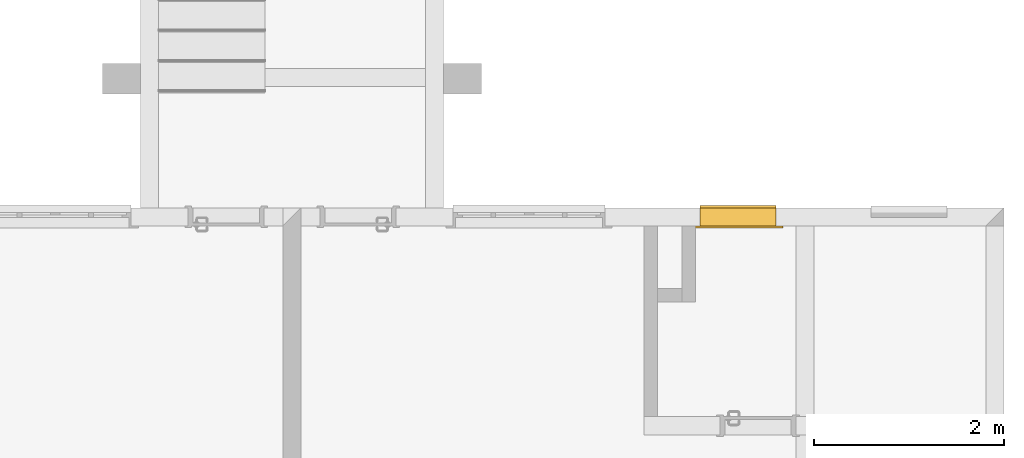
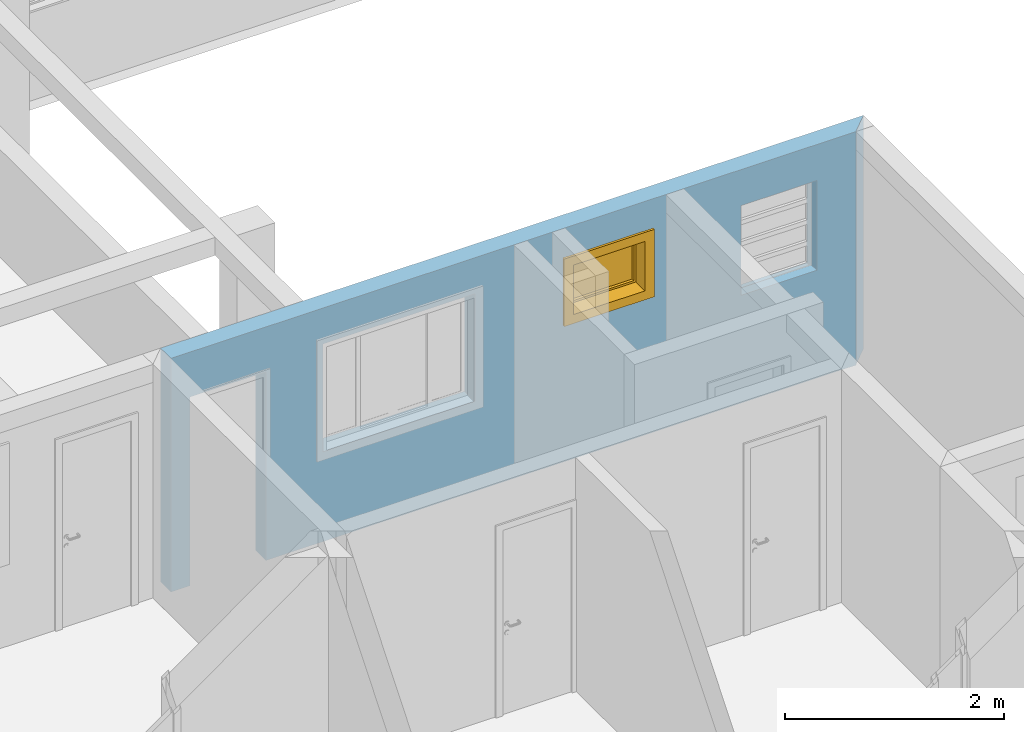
# One storey, part 22 of 47: 1 window, 4 openings, plus 1 element that does not belong to this part.
"""IFC2X3 building model written with IfcOpenShell, lengths in millimetres."""

from ifc_helpers import new_model, entity, si_unit, converted_unit, derived_unit, money_unit, direction, frame, origin_with_axes, origin_2d_with_axis, place, context, subcontext, project, spatial, polyline, rectangle, outline, extrude, open_shell, faceted_brep, surface_model, source, transform, mapped, material, layer, layer_set, layer_usage, type_object, element, fill, save


model = new_model("IFC2X3")

# Units and contexts
model_context = context("Model", 3, precision=0.01, world=origin_with_axes(), true_north=direction((0.0, 1.0)))
body_context = subcontext(model_context, "Body", "Model", "MODEL_VIEW")
ifc_project = project(units=[si_unit("LENGTHUNIT", "METRE", prefix="MILLI"), si_unit("AREAUNIT", "SQUARE_METRE"), si_unit("VOLUMEUNIT", "CUBIC_METRE"), converted_unit("PLANEANGLEUNIT", "DEGREE", entity("IfcPlaneAngleMeasure", 0.0174532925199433), si_unit("PLANEANGLEUNIT", "RADIAN"), dimensions=[0, 0, 0, 0, 0, 0, 0]), money_unit("USD"), converted_unit("TIMEUNIT", "Year", entity("IfcTimeMeasure", 31557600.0), si_unit("TIMEUNIT", "SECOND"), dimensions=[0, 0, 1, 0, 0, 0, 0]), si_unit("MASSUNIT", "GRAM", prefix="KILO"), si_unit("THERMODYNAMICTEMPERATUREUNIT", "DEGREE_CELSIUS"), si_unit("LUMINOUSINTENSITYUNIT", "LUMEN"), si_unit("ENERGYUNIT", "JOULE", prefix="MEGA"), derived_unit("THERMALCONDUCTANCEUNIT", [(si_unit("POWERUNIT", "WATT"), 1), (si_unit("LENGTHUNIT", "METRE"), -1), (si_unit("THERMODYNAMICTEMPERATUREUNIT", "KELVIN"), -1)]), derived_unit("SPECIFICHEATCAPACITYUNIT", [(si_unit("ENERGYUNIT", "JOULE"), 1), (si_unit("MASSUNIT", "GRAM", prefix="KILO"), -1), (si_unit("THERMODYNAMICTEMPERATUREUNIT", "KELVIN"), -1)]), derived_unit("MASSDENSITYUNIT", [(si_unit("MASSUNIT", "GRAM", prefix="KILO"), 1), (si_unit("VOLUMEUNIT", "CUBIC_METRE"), -1)])], contexts=[model_context])

# Site, building, storey
site_placement = place(None, origin_with_axes())
site = spatial("IfcSite", under=ifc_project, at=site_placement, Name="Local", CompositionType="ELEMENT")
building_placement = place(site_placement, origin_with_axes())
building = spatial("IfcBuilding", under=site, at=building_placement, Name="Construção", CompositionType="ELEMENT")
storey_placement = place(building_placement, origin_with_axes())
storey = spatial("IfcBuildingStorey", under=building, at=storey_placement, Name="Pavimento Tipo", CompositionType="ELEMENT", Elevation=0.0)

# Wall, openings, window
ifc_material = material(Name="Concreto - Estrutural")
ifc_layer = layer(ifc_material, 190.0, ventilated="UNKNOWN")
ifc_layer_set = layer_set([ifc_layer], Name="Concreto - Estrutural 190")
ifc_layer_usage = layer_usage(ifc_layer_set, "AXIS2", "POSITIVE", -190.0)
wall_type = type_object("IfcWallType", Name="Concreto - Estrutural 190", PredefinedType="NOTDEFINED")
wall_placement = place(storey_placement, frame((1042.56699750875, 5186.981417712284, 0.0), z_axis=(0.0, 0.0, 1.0), x_axis=(1.0, 0.0, 0.0)))
wall = element("IfcWallStandardCase", 1, at=wall_placement, inside=storey, type_object=wall_type, material=ifc_layer_usage, Name="Apartamento 4 - Parede-003", context=body_context, shape_type="SweptSolid", body=[
    extrude(outline(polyline([(0.0, -190.0000000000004), (7209.999999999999, -190.0000000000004), (7399.999999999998, 0.0), (0.0, 0.0), (0.0, -190.0000000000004)])), origin_with_axes(), (0.0, 0.0, 1.0), 2600.0),
])
opening_1_placement = place(wall_placement, frame((2400.0, 0.0, 1000.0), z_axis=(0.0, 0.0, 1.0), x_axis=(1.0, 0.0, 0.0)))
element("IfcOpeningElement", 2, at=opening_1_placement, cuts=wall, Name="Apartamento 4 - J01", context=body_context, shape_type="SweptSolid", body=[
    extrude(rectangle(XDim=1600.0, YDim=1200.0, at=origin_2d_with_axis()), frame((0.0, -49.99999999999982, 600.0000000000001), z_axis=(0.0, 1.0, 0.0), x_axis=(1.0, 0.0, 0.0)), (0.0, 0.0, -1.0), 330.0),
    extrude(rectangle(XDim=1600.0, YDim=1200.0, at=origin_2d_with_axis()), frame((0.0, -49.99999999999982, 600.0000000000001), z_axis=(0.0, -1.0, 0.0), x_axis=(1.0, 0.0, 0.0)), (0.0, 0.0, -1.0), 240.0),
    extrude(rectangle(XDim=1750.0, YDim=1350.0, at=origin_2d_with_axis()), frame((0.0, -189.9999999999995, 600.0000000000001), z_axis=(0.0, 1.0, 0.0), x_axis=(1.0, 0.0, 0.0)), (0.0, 0.0, -1.0), 240.0),
])
opening_2_placement = place(wall_placement, frame((6399.999999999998, 0.0, 1200.0), z_axis=(0.0, 0.0, 1.0), x_axis=(1.0, 0.0, 0.0)))
element("IfcOpeningElement", 3, at=opening_2_placement, cuts=wall, Name="Apartamento 4 - J03", context=body_context, shape_type="SweptSolid", body=[
    extrude(rectangle(XDim=800.0000000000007, YDim=1000.0, at=origin_2d_with_axis()), frame((0.0, -49.99999999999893, 500.0), z_axis=(0.0, -1.0, 0.0), x_axis=(-1.0, 0.0, 0.0)), (0.0, 0.0, 1.0), 330.0),
    extrude(rectangle(XDim=800.0000000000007, YDim=1000.0, at=origin_2d_with_axis()), frame((0.0, -49.99999999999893, 500.0), z_axis=(0.0, 1.0, 0.0), x_axis=(-1.0, 0.0, 0.0)), (0.0, 0.0, 1.0), 240.0),
    extrude(rectangle(XDim=800.0000000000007, YDim=30.00000000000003, at=origin_2d_with_axis()), frame((0.0, -84.99999999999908, -14.9999999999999), z_axis=(0.0, 1.0, 0.0), x_axis=(-1.0, 0.0, 0.0)), (0.0, 0.0, 1.0), 225.0),
])
opening_3_placement = place(wall_placement, frame((600.0000000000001, 0.0, 0.0), z_axis=(0.0, 0.0, 1.0), x_axis=(1.0, 0.0, 0.0)))
element("IfcOpeningElement", 4, at=opening_3_placement, cuts=wall, Name="Apartamento 4 - P01", context=body_context, shape_type="SweptSolid", body=[
    extrude(rectangle(XDim=800.0, YDim=2100.0, at=origin_2d_with_axis()), frame((0.0, -190.0000000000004, 1050.0), z_axis=(0.0, 1.0, 0.0), x_axis=(-1.0, 0.0, 0.0)), (0.0, 0.0, 1.0), 570.0000000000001),
    extrude(rectangle(XDim=870.0000000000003, YDim=2135.0, at=origin_2d_with_axis()), frame((0.0, -190.0000000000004, 1067.5), z_axis=(0.0, 1.0, 0.0), x_axis=(-1.0, 0.0, 0.0)), (0.0, 0.0, -1.0), 190.0),
    extrude(rectangle(XDim=870.0000000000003, YDim=2135.0, at=origin_2d_with_axis()), frame((0.0, 0.0, 1067.5), z_axis=(0.0, -1.0, 0.0), x_axis=(-1.0, 0.0, 0.0)), (0.0, 0.0, -1.0), 190.0),
])
opening_4_placement = place(wall_placement, frame((4600.0, 0.0, 1600.0), z_axis=(0.0, 0.0, 1.0), x_axis=(1.0, 0.0, 0.0)))
opening_4 = element("IfcOpeningElement", 5, at=opening_4_placement, cuts=wall, Name="Apartamento 4 - J02", context=body_context, shape_type="SweptSolid", body=[
    extrude(rectangle(XDim=800.0000000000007, YDim=600.0000000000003, at=origin_2d_with_axis()), frame((0.0, -190.0000000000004, 300.0000000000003), z_axis=(0.0, -1.0, 0.0), x_axis=(-1.0, 0.0, 0.0)), (0.0, 0.0, -1.0), 570.0000000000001),
    extrude(rectangle(XDim=800.0000000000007, YDim=30.00000000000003, at=origin_2d_with_axis()), frame((0.0, -34.99999999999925, -14.9999999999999), z_axis=(0.0, 1.0, 0.0), x_axis=(-1.0, 0.0, 0.0)), (0.0, 0.0, 1.0), 225.0),
    extrude(rectangle(XDim=949.9999999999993, YDim=750.0, at=origin_2d_with_axis()), frame((0.0, -189.9999999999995, 300.0000000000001), z_axis=(0.0, -1.0, 0.0), x_axis=(-1.0, 0.0, 0.0)), (0.0, 0.0, 1.0), 190.0),
])
window_style = type_object("IfcWindowStyle", Name="Janela 27", ConstructionType="NOTDEFINED", OperationType="SINGLE_PANEL", ParameterTakesPrecedence=False, Sizeable=False)
shared_shape = source(origin_with_axes(), body_context, "Body", "SurfaceModel", [
    faceted_brep([(400.0, -34.99999999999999, 0.0), (400.0, -24.99999999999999, 0.0), (-400.0, -24.99999999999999, 0.0), (-400.0, -34.99999999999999, 0.0), (400.0, -34.99999999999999, -30.0), (400.0, 25.0, -30.0), (400.0, 25.0, -17.02704173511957), (400.0, -24.99999999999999, -10.0), (-400.0, -24.99999999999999, -9.999999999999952), (-400.0, 25.0, -17.02704173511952), (-400.0, 25.0, -29.99999999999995), (-400.0, -34.99999999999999, -29.99999999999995)], [[[0, 1, 2, 3]], [[0, 4, 5, 6, 7, 1]], [[1, 7, 8, 2]], [[3, 2, 8, 9, 10, 11]], [[4, 0, 3, 11]], [[5, 4, 11, 10]], [[6, 5, 10, 9]], [[7, 6, 9, 8]]]),
    faceted_brep([(400.0, -49.99999999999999, 0.0), (400.0, -190.0, 0.0), (-400.0, -190.0, 0.0), (-400.0, -49.99999999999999, 0.0), (400.0, -50.00000000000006, 600.0), (400.0, -190.0000000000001, 600.0), (-400.0, -190.0000000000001, 600.0), (375.0, -190.0, 24.99999999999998), (-375.0, -190.0, 24.99999999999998), (-375.0, -190.0000000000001, 575.0), (375.0, -190.0000000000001, 575.0), (-400.0, -50.00000000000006, 600.0), (375.0, -49.99999999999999, 24.99999999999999), (375.0, -50.00000000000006, 575.0), (-375.0, -50.00000000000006, 575.0), (-375.0, -49.99999999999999, 24.99999999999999)], [[[0, 1, 2, 3]], [[4, 5, 1, 0]], [[1, 5, 6, 2], [7, 8, 9, 10]], [[3, 2, 6, 11]], [[0, 3, 11, 4], [12, 13, 14, 15]], [[11, 6, 5, 4]], [[15, 8, 7, 12]], [[14, 9, 8, 15]], [[13, 10, 9, 14]], [[12, 7, 10, 13]]]),
    faceted_brep([(475.0, -215.0, -75.00000000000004), (375.0, -215.0, 24.99999999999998), (375.0, -190.0, 24.99999999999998), (475.0, -190.0, -75.00000000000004), (475.0, -215.0000000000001, 675.0), (375.0, -215.0000000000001, 575.0), (375.0, -190.0000000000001, 575.0), (475.0, -190.0000000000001, 675.0)], [[[0, 1, 2, 3]], [[0, 4, 5, 1]], [[1, 5, 6, 2]], [[3, 2, 6, 7]], [[4, 0, 3, 7]], [[5, 4, 7, 6]]]),
    faceted_brep([(-475.0, -215.0000000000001, 675.0), (-375.0, -215.0000000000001, 575.0), (-375.0, -190.0000000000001, 575.0), (-475.0, -190.0000000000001, 675.0), (-475.0, -215.0, -75.00000000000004), (-375.0, -215.0, 24.99999999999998), (-375.0, -190.0, 24.99999999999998), (-475.0, -190.0, -75.00000000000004)], [[[0, 1, 2, 3]], [[0, 4, 5, 1]], [[1, 5, 6, 2]], [[3, 2, 6, 7]], [[4, 0, 3, 7]], [[5, 4, 7, 6]]]),
    faceted_brep([(-475.0, -215.0, -75.00000000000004), (-375.0, -215.0, 24.99999999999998), (-375.0, -190.0, 24.99999999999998), (-475.0, -190.0, -75.00000000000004), (475.0, -215.0, -75.00000000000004), (375.0, -215.0, 24.99999999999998), (375.0, -190.0, 24.99999999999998), (475.0, -190.0, -75.00000000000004)], [[[0, 1, 2, 3]], [[0, 4, 5, 1]], [[1, 5, 6, 2]], [[3, 2, 6, 7]], [[4, 0, 3, 7]], [[5, 4, 7, 6]]]),
    faceted_brep([(475.0, -215.0000000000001, 674.9999999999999), (375.0, -215.0000000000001, 575.0), (375.0, -190.0000000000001, 575.0), (475.0, -190.0000000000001, 674.9999999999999), (-475.0, -215.0000000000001, 674.9999999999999), (-375.0, -215.0000000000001, 575.0), (-375.0, -190.0000000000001, 575.0), (-475.0, -190.0000000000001, 674.9999999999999)], [[[0, 1, 2, 3]], [[0, 4, 5, 1]], [[1, 5, 6, 2]], [[3, 2, 6, 7]], [[4, 0, 3, 7]], [[5, 4, 7, 6]]]),
    faceted_brep([(373.0000000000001, 0.0, 552.9999999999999), (373.0000000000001, -20.00000000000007, 552.9999999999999), (353.0000000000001, -20.00000000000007, 552.9999999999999), (353.0000000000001, -50.00000000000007, 552.9999999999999), (400.0, -50.00000000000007, 552.9999999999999), (400.0, 0.0, 552.9999999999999), (373.0000000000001, 0.0, 46.99999999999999), (373.0000000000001, -20.00000000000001, 47.00000000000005), (353.0000000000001, -20.00000000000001, 46.99999999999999), (353.0000000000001, -50.00000000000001, 46.99999999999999), (400.0, -50.00000000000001, 46.99999999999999), (400.0, 0.0, 46.99999999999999)], [[[0, 1, 2, 3, 4, 5]], [[1, 0, 6, 7]], [[8, 2, 1, 7]], [[2, 8, 9, 3]], [[4, 3, 9, 10]], [[5, 4, 10, 11]], [[6, 0, 5, 11]], [[7, 6, 11, 10, 9, 8]]]),
    faceted_brep([(-353.0000000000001, -20.00000000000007, 552.9999999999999), (-373.0000000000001, -20.00000000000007, 552.9999999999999), (-373.0000000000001, 0.0, 552.9999999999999), (-400.0, 0.0, 552.9999999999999), (-400.0, -50.00000000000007, 552.9999999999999), (-353.0000000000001, -50.00000000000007, 552.9999999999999), (-353.0000000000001, -20.00000000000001, 46.99999999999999), (-373.0000000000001, -20.00000000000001, 46.99999999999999), (-373.0000000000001, 0.0, 46.99999999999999), (-400.0, 0.0, 46.99999999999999), (-400.0, -50.00000000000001, 46.99999999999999), (-353.0000000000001, -50.00000000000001, 46.99999999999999)], [[[0, 1, 2, 3, 4, 5]], [[1, 0, 6, 7]], [[8, 2, 1, 7]], [[2, 8, 9, 3]], [[9, 10, 4, 3]], [[10, 11, 5, 4]], [[6, 0, 5, 11]], [[7, 6, 11, 10, 9, 8]]]),
    faceted_brep([(-353.0000000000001, -20.00000000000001, 46.99999999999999), (-373.0000000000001, -20.00000000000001, 46.99999999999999), (-373.0000000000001, 0.0, 46.99999999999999), (-400.0, 0.0, 46.99999999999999), (-400.0, -50.00000000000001, 46.99999999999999), (-353.0000000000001, -50.00000000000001, 46.99999999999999), (353.0000000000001, -20.00000000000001, 46.99999999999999), (373.0000000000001, -20.00000000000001, 47.00000000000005), (373.0000000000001, -20.0, 27.00000000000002), (-373.0000000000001, -20.0, 27.00000000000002), (-373.0000000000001, 0.0, 27.00000000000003), (373.0000000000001, 0.0, 27.00000000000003), (373.0000000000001, 0.0, 46.99999999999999), (400.0, 0.0, 46.99999999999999), (400.0, 0.0, 0.0), (-400.0, 0.0, 0.0), (-400.0, -50.0, 0.0), (400.0, -50.00000000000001, 46.99999999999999), (353.0000000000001, -50.00000000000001, 46.99999999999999), (400.0, -50.0, 0.0)], [[[0, 1, 2, 3, 4, 5]], [[1, 0, 6, 7, 8, 9]], [[10, 2, 1, 9]], [[11, 12, 13, 14, 15, 3, 2, 10]], [[15, 16, 4, 3]], [[17, 18, 5, 4, 16, 19]], [[6, 0, 5, 18]], [[7, 6, 18, 17, 13, 12]], [[7, 12, 11, 8]], [[11, 10, 9, 8]], [[13, 17, 19, 14]], [[14, 19, 16, 15]]]),
    faceted_brep([(373.0000000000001, 0.0, 552.9999999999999), (373.0000000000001, 0.0, 573.0), (-373.0000000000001, 0.0, 573.0), (-373.0000000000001, 0.0, 552.9999999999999), (-400.0, 0.0, 552.9999999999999), (-400.0, 0.0, 600.0), (400.0, 0.0, 600.0), (400.0, 0.0, 552.9999999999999), (373.0000000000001, -20.00000000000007, 552.9999999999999), (373.0000000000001, -20.00000000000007, 573.0), (-373.0000000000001, -20.00000000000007, 573.0), (-373.0000000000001, -20.00000000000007, 552.9999999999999), (-353.0000000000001, -20.00000000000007, 552.9999999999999), (-353.0000000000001, -50.00000000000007, 552.9999999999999), (-400.0, -50.00000000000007, 552.9999999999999), (-400.0, -50.00000000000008, 600.0), (400.0, -50.00000000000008, 600.0), (400.0, -50.00000000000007, 552.9999999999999), (353.0000000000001, -50.00000000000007, 552.9999999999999), (353.0000000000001, -20.00000000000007, 552.9999999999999)], [[[0, 1, 2, 3, 4, 5, 6, 7]], [[1, 0, 8, 9]], [[2, 1, 9, 10]], [[3, 2, 10, 11]], [[11, 12, 13, 14, 4, 3]], [[4, 14, 15, 5]], [[5, 15, 16, 6]], [[6, 16, 17, 7]], [[8, 0, 7, 17, 18, 19]], [[12, 11, 10, 9, 8, 19]], [[12, 19, 18, 13]], [[14, 13, 18, 17, 16, 15]]]),
    faceted_brep([(323.0000000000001, -20.00000000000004, 522.9999999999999), (373.0000000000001, -20.00000000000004, 522.9999999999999), (373.0000000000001, 0.0, 522.9999999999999), (323.0000000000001, 0.0, 522.9999999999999), (323.0000000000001, -19.99999999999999, 77.00000000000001), (373.0000000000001, -19.99999999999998, 77.00000000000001), (373.0000000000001, 0.0, 77.00000000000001), (323.0000000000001, 0.0, 77.00000000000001)], [[[0, 1, 2, 3]], [[0, 4, 5, 1]], [[1, 5, 6, 2]], [[3, 2, 6, 7]], [[4, 0, 3, 7]], [[5, 4, 7, 6]]]),
    faceted_brep([(-323.0000000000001, -20.00000000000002, 77.00000000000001), (-373.0000000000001, -20.00000000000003, 77.00000000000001), (-373.0000000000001, 0.0, 77.00000000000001), (-323.0000000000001, 0.0, 77.00000000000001), (-323.0000000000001, -20.00000000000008, 522.9999999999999), (-373.0000000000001, -20.00000000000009, 522.9999999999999), (-373.0000000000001, 0.0, 522.9999999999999), (-323.0000000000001, 0.0, 522.9999999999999)], [[[0, 1, 2, 3]], [[0, 4, 5, 1]], [[1, 5, 6, 2]], [[3, 2, 6, 7]], [[4, 0, 3, 7]], [[5, 4, 7, 6]]]),
    faceted_brep([(-373.0000000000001, -20.00000000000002, 27.0), (-373.0000000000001, -20.00000000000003, 77.00000000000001), (-373.0000000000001, 0.0, 77.00000000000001), (-373.0000000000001, 0.0, 27.00000000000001), (373.0000000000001, -19.99999999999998, 27.0), (373.0000000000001, -19.99999999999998, 77.00000000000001), (323.0000000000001, -19.99999999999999, 77.00000000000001), (-323.0000000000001, -20.00000000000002, 77.00000000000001), (-323.0000000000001, 0.0, 77.00000000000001), (323.0000000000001, 0.0, 77.00000000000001), (373.0000000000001, 0.0, 77.00000000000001), (373.0000000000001, 0.0, 27.00000000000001)], [[[0, 1, 2, 3]], [[0, 4, 5, 6, 7, 1]], [[1, 7, 8, 2]], [[3, 2, 8, 9, 10, 11]], [[4, 0, 3, 11]], [[5, 4, 11, 10]], [[6, 5, 10, 9]], [[7, 6, 9, 8]]]),
    faceted_brep([(373.0000000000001, -20.00000000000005, 573.0), (373.0000000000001, -20.00000000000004, 522.9999999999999), (373.0000000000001, 0.0, 522.9999999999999), (373.0000000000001, 0.0, 573.0), (-373.0000000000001, -20.00000000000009, 573.0), (-373.0000000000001, -20.00000000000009, 522.9999999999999), (-323.0000000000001, -20.00000000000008, 522.9999999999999), (323.0000000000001, -20.00000000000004, 522.9999999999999), (323.0000000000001, 0.0, 522.9999999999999), (-323.0000000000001, 0.0, 522.9999999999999), (-373.0000000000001, 0.0, 522.9999999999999), (-373.0000000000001, 0.0, 573.0)], [[[0, 1, 2, 3]], [[0, 4, 5, 6, 7, 1]], [[1, 7, 8, 2]], [[3, 2, 8, 9, 10, 11]], [[4, 0, 3, 11]], [[5, 4, 11, 10]], [[6, 5, 10, 9]], [[7, 6, 9, 8]]]),
    surface_model("IfcShellBasedSurfaceModel", [(323.0000000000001, -20.00000000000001, 77.00000000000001), (323.0000000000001, -20.00000000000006, 522.9999999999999), (-323.0000000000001, -20.00000000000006, 522.9999999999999), (-323.0000000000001, -20.00000000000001, 77.00000000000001)], [open_shell([[[0, 1, 2, 3]]])]),
    surface_model("IfcShellBasedSurfaceModel", [(323.0000000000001, 0.0, 77.00000000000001), (-323.0000000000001, 0.0, 77.00000000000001), (-323.0000000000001, 0.0, 522.9999999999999), (323.0000000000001, 0.0, 522.9999999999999)], [open_shell([[[0, 1, 2, 3]]])]),
])
window_placement = place(opening_4_placement, frame((-400.0000000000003, 0.0, 0.0), z_axis=(0.0, 0.0, 1.0), x_axis=(1.0, 0.0, 0.0)))
window = element("IfcWindow", 6, at=window_placement, inside=storey, type_object=window_style, Name="Apartamento 4 - J02", ObjectType="WINDOW", OverallHeight=600.0, OverallWidth=800.0, context=body_context, shape_type="MappedRepresentation", body=[
    mapped(shared_shape, transform((400.0000000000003, 0.0, 0.0))),
])
fill(opening_4, window)

save(model, "model.ifc")
